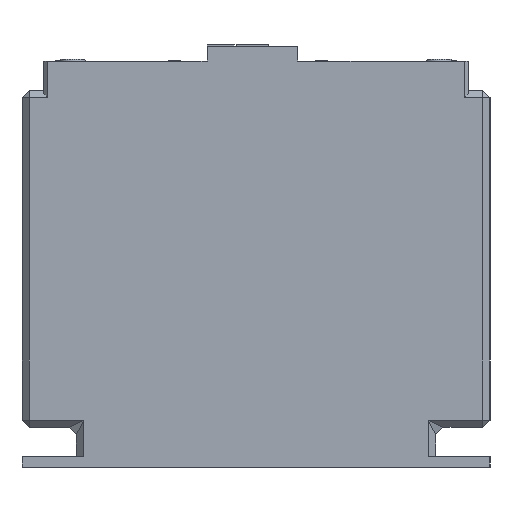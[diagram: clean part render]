
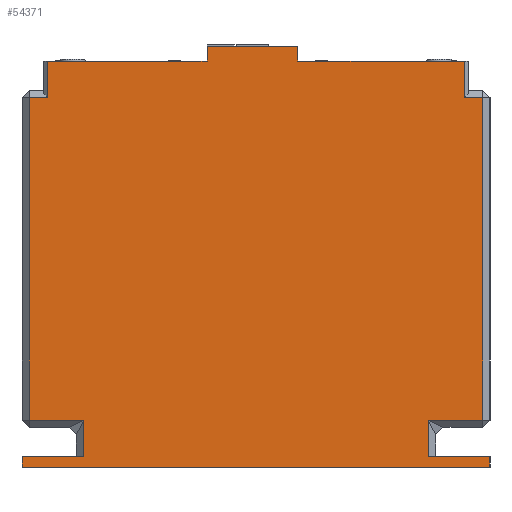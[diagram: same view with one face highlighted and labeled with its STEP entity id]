
A CAD part, left-side view. The second image highlights one B-rep face of the part: STEP entity #54371.
In plain terms, the highlighted planar face has unit normal (-1, 0, 0).
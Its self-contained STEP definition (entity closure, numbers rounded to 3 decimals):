
#6091=FACE_OUTER_BOUND('',#9269,.T.);
#9269=EDGE_LOOP('',(#46164,#46165,#46166,#46167,#46168,#46169,#46170,#46171,
#46172,#46173,#46174,#46175,#46176,#46177,#46178,#46179,#46180,#46181,#46182,
#46183));
#12516=LINE('',#82197,#17994);
#12695=LINE('',#83034,#18173);
#14486=LINE('',#93480,#19964);
#14498=LINE('',#93504,#19976);
#14499=LINE('',#93507,#19977);
#14500=LINE('',#93509,#19978);
#14501=LINE('',#93510,#19979);
#14502=LINE('',#93512,#19980);
#14503=LINE('',#93514,#19981);
#14504=LINE('',#93516,#19982);
#14505=LINE('',#93518,#19983);
#14506=LINE('',#93520,#19984);
#14507=LINE('',#93522,#19985);
#14508=LINE('',#93524,#19986);
#14509=LINE('',#93526,#19987);
#14510=LINE('',#93528,#19988);
#14511=LINE('',#93530,#19989);
#14512=LINE('',#93532,#19990);
#14513=LINE('',#93534,#19991);
#14514=LINE('',#93535,#19992);
#17994=VECTOR('',#62702,10.);
#18173=VECTOR('',#62965,10.);
#19964=VECTOR('',#66032,10.);
#19976=VECTOR('',#66052,10.);
#19977=VECTOR('',#66055,10.);
#19978=VECTOR('',#66056,10.);
#19979=VECTOR('',#66057,10.);
#19980=VECTOR('',#66058,10.);
#19981=VECTOR('',#66059,10.);
#19982=VECTOR('',#66060,10.);
#19983=VECTOR('',#66061,10.);
#19984=VECTOR('',#66062,10.);
#19985=VECTOR('',#66063,10.);
#19986=VECTOR('',#66064,10.);
#19987=VECTOR('',#66065,10.);
#19988=VECTOR('',#66066,10.);
#19989=VECTOR('',#66067,10.);
#19990=VECTOR('',#66068,10.);
#19991=VECTOR('',#66069,10.);
#19992=VECTOR('',#66070,10.);
#23302=VERTEX_POINT('',#82194);
#23303=VERTEX_POINT('',#82196);
#23578=VERTEX_POINT('',#83031);
#23579=VERTEX_POINT('',#83033);
#25108=VERTEX_POINT('',#93479);
#25116=VERTEX_POINT('',#93502);
#25117=VERTEX_POINT('',#93506);
#25118=VERTEX_POINT('',#93508);
#25119=VERTEX_POINT('',#93511);
#25120=VERTEX_POINT('',#93513);
#25121=VERTEX_POINT('',#93515);
#25122=VERTEX_POINT('',#93517);
#25123=VERTEX_POINT('',#93519);
#25124=VERTEX_POINT('',#93521);
#25125=VERTEX_POINT('',#93523);
#25126=VERTEX_POINT('',#93525);
#25127=VERTEX_POINT('',#93527);
#25128=VERTEX_POINT('',#93529);
#25129=VERTEX_POINT('',#93531);
#25130=VERTEX_POINT('',#93533);
#29682=EDGE_CURVE('',#23303,#23302,#12516,.T.);
#29977=EDGE_CURVE('',#23579,#23578,#12695,.T.);
#32407=EDGE_CURVE('',#23303,#25108,#14486,.T.);
#32419=EDGE_CURVE('',#25116,#23578,#14498,.T.);
#32420=EDGE_CURVE('',#25117,#23302,#14499,.T.);
#32421=EDGE_CURVE('',#25118,#25117,#14500,.T.);
#32422=EDGE_CURVE('',#25118,#23579,#14501,.T.);
#32423=EDGE_CURVE('',#25119,#25116,#14502,.T.);
#32424=EDGE_CURVE('',#25120,#25119,#14503,.T.);
#32425=EDGE_CURVE('',#25121,#25120,#14504,.T.);
#32426=EDGE_CURVE('',#25122,#25121,#14505,.T.);
#32427=EDGE_CURVE('',#25122,#25123,#14506,.T.);
#32428=EDGE_CURVE('',#25124,#25123,#14507,.T.);
#32429=EDGE_CURVE('',#25124,#25125,#14508,.T.);
#32430=EDGE_CURVE('',#25125,#25126,#14509,.T.);
#32431=EDGE_CURVE('',#25126,#25127,#14510,.T.);
#32432=EDGE_CURVE('',#25128,#25127,#14511,.T.);
#32433=EDGE_CURVE('',#25129,#25128,#14512,.T.);
#32434=EDGE_CURVE('',#25130,#25129,#14513,.T.);
#32435=EDGE_CURVE('',#25108,#25130,#14514,.T.);
#46164=ORIENTED_EDGE('',*,*,#32407,.F.);
#46165=ORIENTED_EDGE('',*,*,#29682,.T.);
#46166=ORIENTED_EDGE('',*,*,#32420,.F.);
#46167=ORIENTED_EDGE('',*,*,#32421,.F.);
#46168=ORIENTED_EDGE('',*,*,#32422,.T.);
#46169=ORIENTED_EDGE('',*,*,#29977,.T.);
#46170=ORIENTED_EDGE('',*,*,#32419,.F.);
#46171=ORIENTED_EDGE('',*,*,#32423,.F.);
#46172=ORIENTED_EDGE('',*,*,#32424,.F.);
#46173=ORIENTED_EDGE('',*,*,#32425,.F.);
#46174=ORIENTED_EDGE('',*,*,#32426,.F.);
#46175=ORIENTED_EDGE('',*,*,#32427,.T.);
#46176=ORIENTED_EDGE('',*,*,#32428,.F.);
#46177=ORIENTED_EDGE('',*,*,#32429,.T.);
#46178=ORIENTED_EDGE('',*,*,#32430,.T.);
#46179=ORIENTED_EDGE('',*,*,#32431,.T.);
#46180=ORIENTED_EDGE('',*,*,#32432,.F.);
#46181=ORIENTED_EDGE('',*,*,#32433,.F.);
#46182=ORIENTED_EDGE('',*,*,#32434,.F.);
#46183=ORIENTED_EDGE('',*,*,#32435,.F.);
#51483=PLANE('',#56926);
#54371=ADVANCED_FACE('',(#6091),#51483,.T.);
#56926=AXIS2_PLACEMENT_3D('',#93505,#66053,#66054);
#62702=DIRECTION('',(0.,1.,0.));
#62965=DIRECTION('',(0.,1.,0.));
#66032=DIRECTION('',(0.,0.,-1.));
#66052=DIRECTION('',(0.,0.,1.));
#66053=DIRECTION('center_axis',(-1.,0.,0.));
#66054=DIRECTION('ref_axis',(0.,-1.,0.));
#66055=DIRECTION('',(0.,0.,-1.));
#66056=DIRECTION('',(0.,-1.,0.));
#66057=DIRECTION('',(0.,0.,-1.));
#66058=DIRECTION('',(0.,-1.,0.));
#66059=DIRECTION('',(0.,0.,1.));
#66060=DIRECTION('',(0.,1.,0.));
#66061=DIRECTION('',(0.,0.,1.));
#66062=DIRECTION('',(0.,1.,0.));
#66063=DIRECTION('',(0.,0.,1.));
#66064=DIRECTION('',(0.,-1.,0.));
#66065=DIRECTION('',(0.,0.,1.));
#66066=DIRECTION('',(0.,1.,0.));
#66067=DIRECTION('',(0.,0.,-1.));
#66068=DIRECTION('',(0.,1.,0.));
#66069=DIRECTION('',(0.,0.,-1.));
#66070=DIRECTION('',(0.,-1.,0.));
#82194=CARTESIAN_POINT('',(0.,53.,112.));
#82196=CARTESIAN_POINT('',(0.,7.,112.));
#82197=CARTESIAN_POINT('',(0.,96.75,112.));
#83031=CARTESIAN_POINT('',(0.,122.,112.));
#83033=CARTESIAN_POINT('',(0.,78.,112.));
#83034=CARTESIAN_POINT('',(0.,96.75,112.));
#93479=CARTESIAN_POINT('',(0.,7.,102.));
#93480=CARTESIAN_POINT('',(0.,7.,58.));
#93502=CARTESIAN_POINT('',(0.,122.,102.));
#93504=CARTESIAN_POINT('',(0.,122.,58.));
#93505=CARTESIAN_POINT('Origin',(0.,129.,0.));
#93506=CARTESIAN_POINT('',(0.,53.,116.));
#93507=CARTESIAN_POINT('',(0.,53.,116.));
#93508=CARTESIAN_POINT('',(0.,78.,116.));
#93509=CARTESIAN_POINT('',(0.,78.,116.));
#93510=CARTESIAN_POINT('',(0.,78.,116.));
#93511=CARTESIAN_POINT('',(0.,127.,102.));
#93512=CARTESIAN_POINT('',(0.,127.304,102.));
#93513=CARTESIAN_POINT('',(0.,127.,13.));
#93514=CARTESIAN_POINT('',(0.,127.,0.));
#93515=CARTESIAN_POINT('',(0.,112.,13.));
#93516=CARTESIAN_POINT('',(0.,129.,13.));
#93517=CARTESIAN_POINT('',(0.,112.,3.));
#93518=CARTESIAN_POINT('',(0.,112.,3.5));
#93519=CARTESIAN_POINT('',(0.,129.,3.));
#93520=CARTESIAN_POINT('',(0.,129.,3.));
#93521=CARTESIAN_POINT('',(0.,129.,0.));
#93522=CARTESIAN_POINT('',(0.,129.,0.));
#93523=CARTESIAN_POINT('',(0.,0.,0.));
#93524=CARTESIAN_POINT('',(0.,129.,0.));
#93525=CARTESIAN_POINT('',(0.,0.,3.));
#93526=CARTESIAN_POINT('',(0.,0.,0.));
#93527=CARTESIAN_POINT('',(0.,17.,3.));
#93528=CARTESIAN_POINT('',(0.,64.5,3.));
#93529=CARTESIAN_POINT('',(0.,17.,13.));
#93530=CARTESIAN_POINT('',(0.,17.,3.5));
#93531=CARTESIAN_POINT('',(0.,2.,13.));
#93532=CARTESIAN_POINT('',(0.,64.5,13.));
#93533=CARTESIAN_POINT('',(0.,2.,102.));
#93534=CARTESIAN_POINT('',(0.,2.,0.));
#93535=CARTESIAN_POINT('',(0.,66.196,102.));
